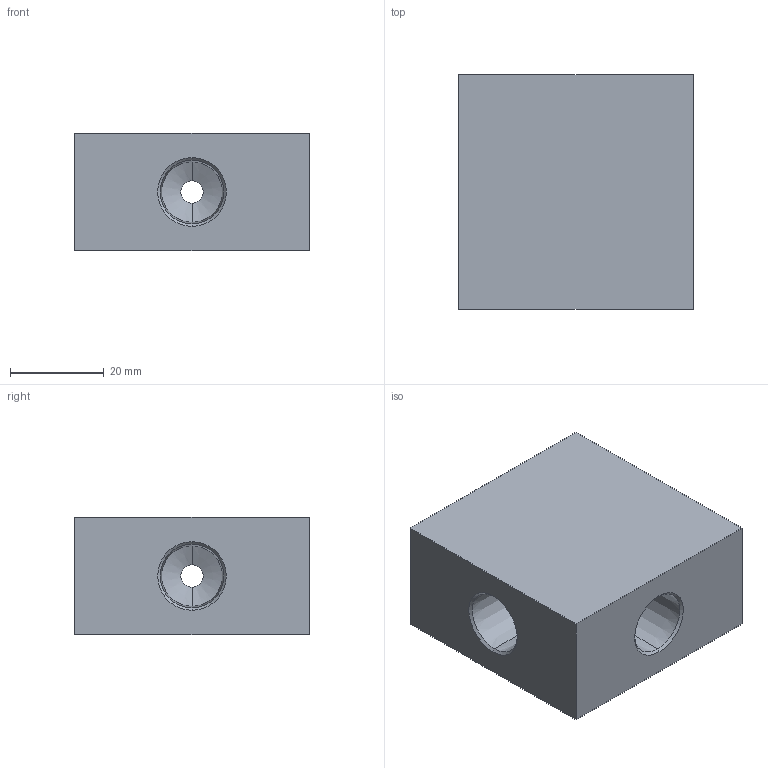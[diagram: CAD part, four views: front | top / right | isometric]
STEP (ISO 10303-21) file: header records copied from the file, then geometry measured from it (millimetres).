
FILE_DESCRIPTION (( 'STEP AP203' ), '1' );
FILE_NAME ('FTNCS04.STEP', '2026-06-26T00:53:32', ( 'USER' ), ( '' ), 'SwSTEP 2.0', 'SolidWorks 2023', '' );
FILE_SCHEMA (( 'CONFIG_CONTROL_DESIGN' ));
Length unit declared in the file: millimetre
Products named in the file (1): FTNCS04
Bounding box: 50 x 50 x 25 mm (x, y, z)
Volume: 52989.2 mm3; surface area: 12826.3 mm2
Topology: 1 solids, 1 shells, 46 faces, 96 edges, 50 vertices
Faces by surface type: cone 24, cylinder 16, plane 6
Entity records: 1273 total; most frequent: DIRECTION 226, CARTESIAN_POINT 205, ORIENTED_EDGE 192, EDGE_CURVE 96, AXIS2_PLACEMENT_3D 87, LINE 52, VECTOR 52, EDGE_LOOP 50
